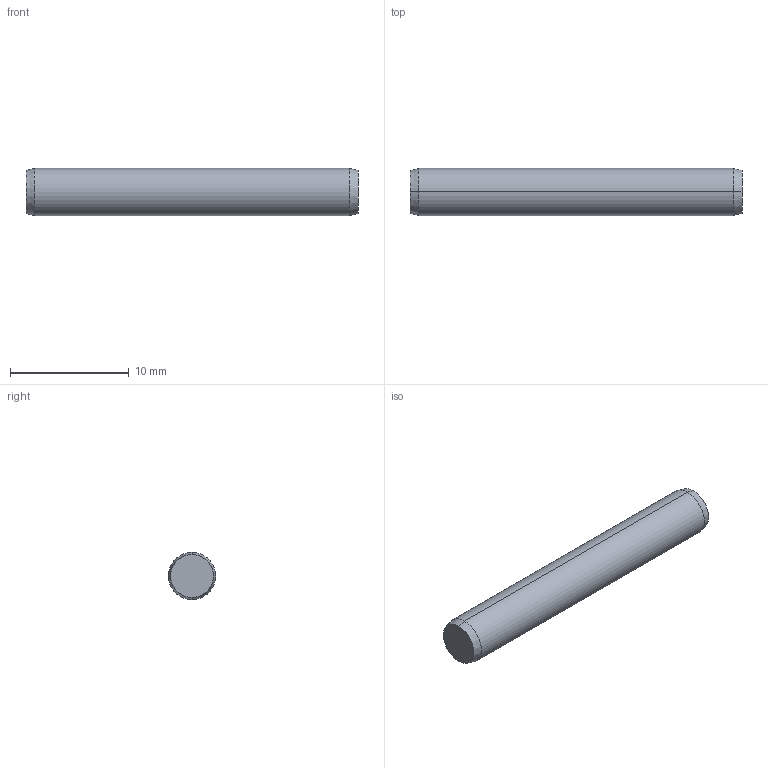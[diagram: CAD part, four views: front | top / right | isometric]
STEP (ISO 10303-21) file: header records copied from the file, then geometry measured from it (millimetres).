
FILE_DESCRIPTION (( 'STEP AP203' ), '1' );
FILE_NAME ('P1206.040-028.step', '2017-06-14T08:11:09', ( 'User' ), ( '' ), 'SwSTEP 2.0', 'SolidWorks 2009', '' );
FILE_SCHEMA (( 'CONFIG_CONTROL_DESIGN' ));
Length unit declared in the file: millimetre
Products named in the file (1): P1206.040-028
Bounding box: 28 x 4 x 4 mm (x, y, z)
Volume: 350.3 mm3; surface area: 372.3 mm2
Topology: 1 solids, 1 shells, 8 faces, 14 edges, 8 vertices
Faces by surface type: cone 4, cylinder 2, plane 2
Entity records: 271 total; most frequent: DIRECTION 40, CARTESIAN_POINT 31, ORIENTED_EDGE 28, AXIS2_PLACEMENT_3D 17, EDGE_CURVE 14, ADVANCED_FACE 8, EDGE_LOOP 8, VERTEX_POINT 8
